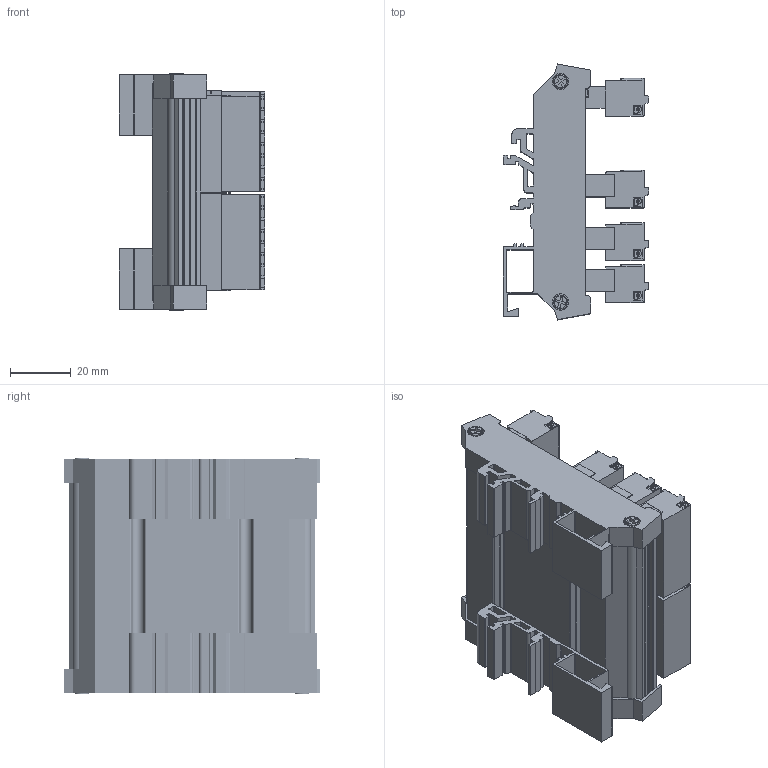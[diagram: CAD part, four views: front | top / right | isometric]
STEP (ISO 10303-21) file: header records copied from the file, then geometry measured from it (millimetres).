
FILE_DESCRIPTION((''),'2;1');
FILE_NAME('00BS12S','2023-04-07T',('PC'),(''),'PRO/ENGINEER BY PARAMETRIC TECHNOLOGY CORPORATION, 2009220','PRO/ENGINEER BY PARAMETRIC TECHNOLOGY CORPORATION, 2009220','');
FILE_SCHEMA(('CONFIG_CONTROL_DESIGN'));
Products named in the file (1): 00BS12S
Bounding box: 47.8 x 84 x 77.8 mm (x, y, z)
Volume: 91263.1 mm3; surface area: 73173.2 mm2
Topology: 1 solids, 21 shells, 5305 faces, 14738 edges, 9670 vertices
Faces by surface type: plane 3111, cylinder 1479, cone 332, extrusion 271, sphere 60, torus 40, bspline 12
Entity records: 183141 total; most frequent: CARTESIAN_POINT 45928, ORIENTED_EDGE 29348, DIRECTION 27896, EDGE_CURVE 14674, VERTEX_POINT 9670, VECTOR 9664, LINE 9393, AXIS2_PLACEMENT_3D 9116
